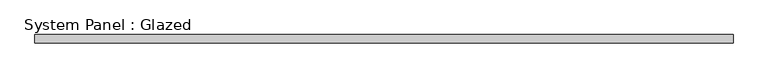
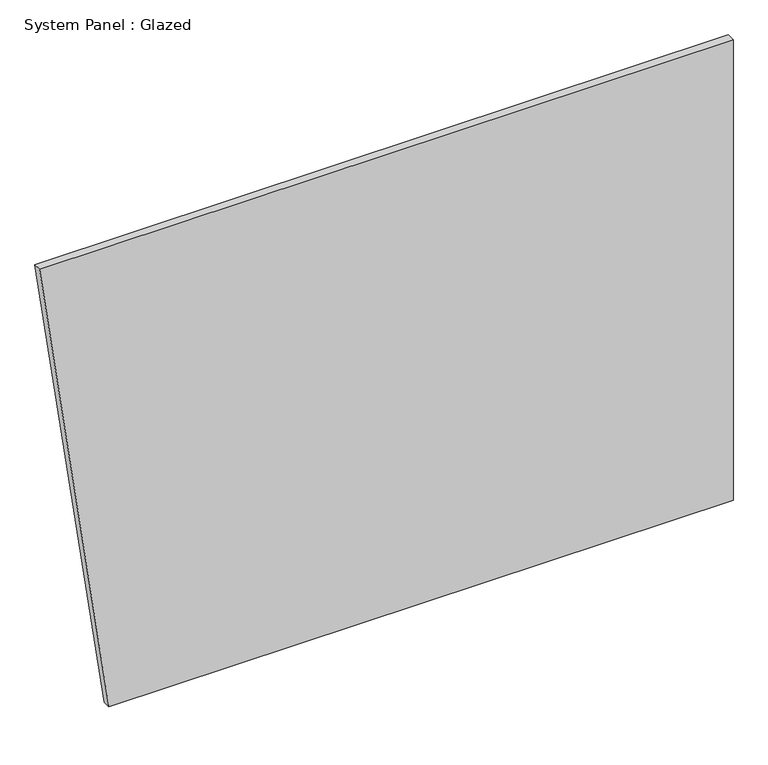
"""IFC4 building model written with IfcOpenShell, lengths in millimetres: plate geometry, System Panel : Glazed."""

from ifc_helpers import new_model, si_unit, frame, origin, place, context, project, spatial, polyline, outline, extrude, source, transform, mapped, element, save


def system_panel_glazed_4e7b55d5(model_context):
    return source(origin(), model_context, "Body", "SweptSolid", [
        extrude(outline(polyline([(0.0, -868.1814206), (0.0, 1085.2267757), (1524.0, 1085.2267757), (1524.0, -1085.2267757), (0.0, -868.1814206)])), frame((0.0, 19.05, 0.0), z_axis=(0.0, 1.0, 0.0), x_axis=(0.0, 0.0, 1.0)), (0.0, 0.0, 1.0), 25.4),
    ])


if __name__ == "__main__":
    model = new_model("IFC4")
    model_context = context("Model", 3, world=origin())
    ifc_project = project(units=[si_unit("LENGTHUNIT", "METRE", prefix="MILLI")], contexts=[model_context])
    site = spatial("IfcSite", under=ifc_project)
    building = spatial("IfcBuilding", under=site)
    placement = place(None, origin())
    system_panel_glazed_shape = system_panel_glazed_4e7b55d5(model_context)
    element("IfcPlate", 1, ObjectType="System Panel : Glazed", at=placement, inside=building, context=model_context, shape_type="MappedRepresentation", body=[
        mapped(system_panel_glazed_shape, transform((0.0, 0.0, 0.0), x_axis=(1.0, 0.0, 0.0), y_axis=(0.0, 1.0, 0.0), z_axis=(0.0, 0.0, 1.0))),
    ])
    save(model, "model.ifc")
